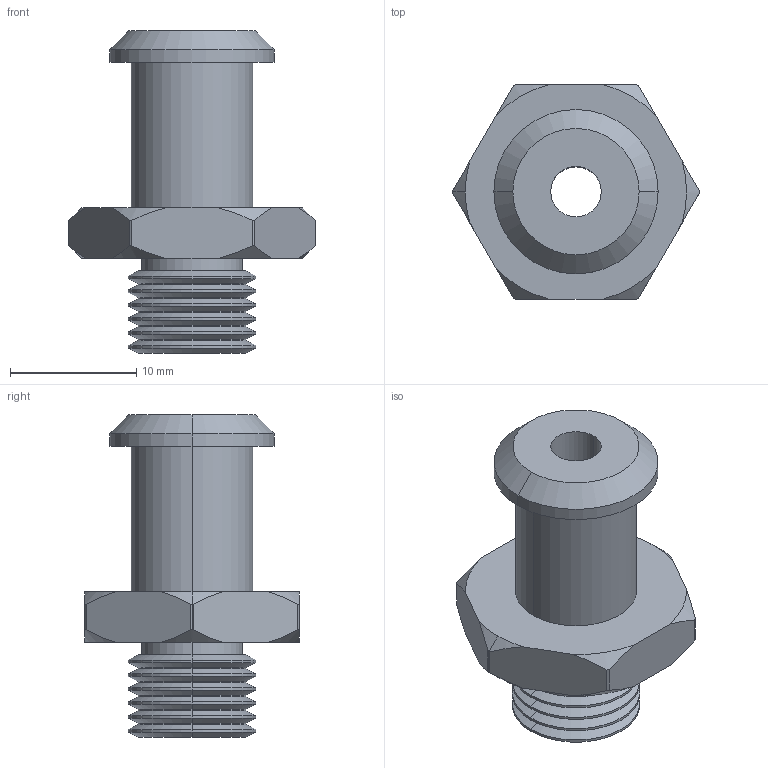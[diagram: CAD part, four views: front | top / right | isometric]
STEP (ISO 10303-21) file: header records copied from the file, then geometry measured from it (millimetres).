
FILE_DESCRIPTION (( 'STEP AP214' ), '1' );
FILE_NAME ('VM-15-G1-8.STEP', '2023-03-06T01:57:49', ( 'Windows User' ), ( 'P R C' ), 'SwSTEP 2.0', 'SolidWorks 2019', '' );
FILE_SCHEMA (( 'AUTOMOTIVE_DESIGN' ));
Length unit declared in the file: millimetre
Products named in the file (1): VM-15-G1-8
Bounding box: 19.5 x 17 x 25.5 mm (x, y, z)
Volume: 2294.7 mm3; surface area: 1944.5 mm2
Topology: 1 solids, 1 shells, 89 faces, 202 edges, 119 vertices
Faces by surface type: cone 40, cylinder 37, plane 12
Entity records: 2593 total; most frequent: CARTESIAN_POINT 539, DIRECTION 453, ORIENTED_EDGE 404, EDGE_CURVE 202, AXIS2_PLACEMENT_3D 185, VERTEX_POINT 119, CIRCLE 95, EDGE_LOOP 95
